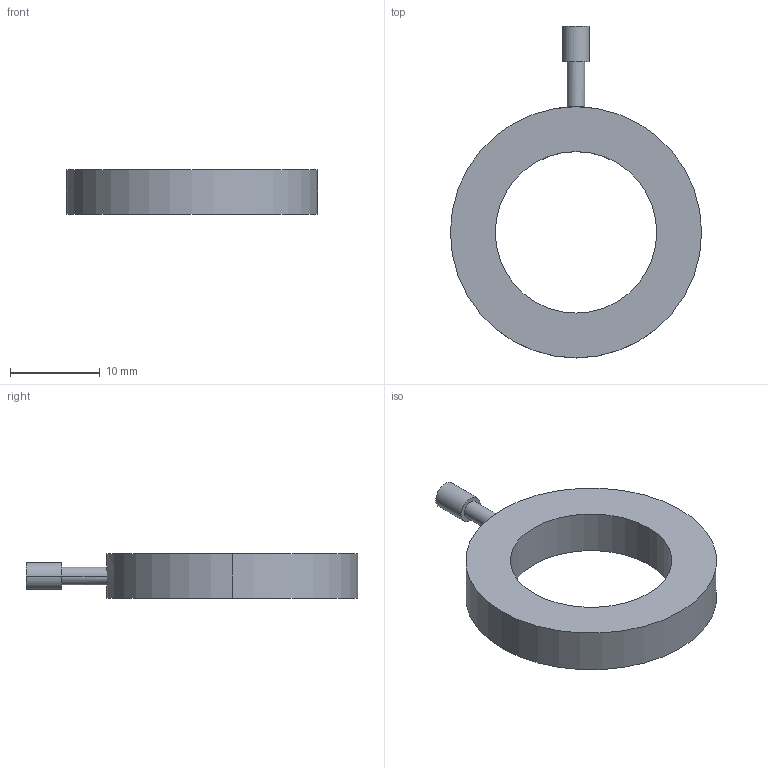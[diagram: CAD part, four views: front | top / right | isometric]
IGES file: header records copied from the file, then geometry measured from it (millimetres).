
Start section:  PTC IGES file: EID01.igs
Global section: file name: EID01.igs; native system: Pro/ENGINEER by Parametric Technology Corporation; preprocessor: 2006460; author: Owner; organization: Unknown; date: 20130730.112539; units: millimetre
Bounding box: 28 x 37 x 5 mm (x, y, z)
Surface area: 1522.2 mm2 (no closed solid volume)
Topology: 0 solids, 0 shells, 12 faces, 48 edges, 48 vertices
Faces by surface type: revolution 8, bspline 4
